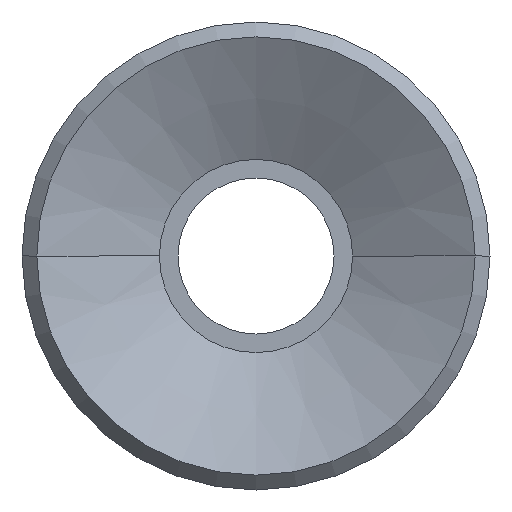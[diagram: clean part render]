
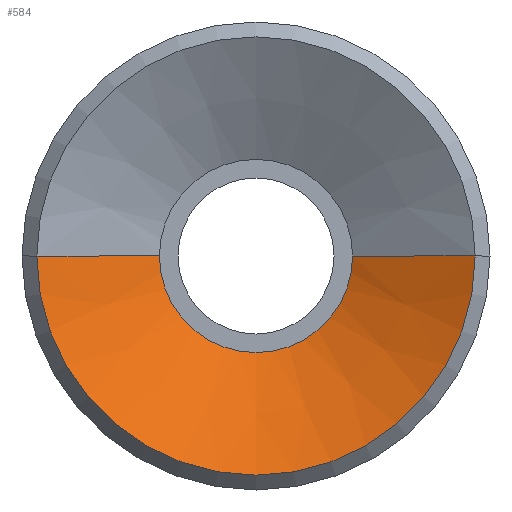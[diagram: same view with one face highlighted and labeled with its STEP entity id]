
A CAD part, front view. The second image highlights one B-rep face of the part: STEP entity #584.
In plain terms, the highlighted conical face has half-angle 61.39 degrees and reference radius 2.95 mm.
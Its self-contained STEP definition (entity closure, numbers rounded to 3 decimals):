
#2 = CARTESIAN_POINT ( 'NONE',  ( 2.95, -4., 0. ) ) ;
#10 = AXIS2_PLACEMENT_3D ( 'NONE', #312, #195, #461 ) ;
#21 = ORIENTED_EDGE ( 'NONE', *, *, #620, .F. ) ;
#26 = CARTESIAN_POINT ( 'NONE',  ( -2.95, -4., 0. ) ) ;
#31 = CARTESIAN_POINT ( 'NONE',  ( 1.3, -3.1, 0. ) ) ;
#38 = DIRECTION ( 'NONE',  ( 0., 1., 0. ) ) ;
#50 = CARTESIAN_POINT ( 'NONE',  ( -2.95, -4., 0. ) ) ;
#51 = VERTEX_POINT ( 'NONE', #149 ) ;
#96 = DIRECTION ( 'NONE',  ( 0., 1., 0. ) ) ;
#109 = VECTOR ( 'NONE', #242, 1000. ) ;
#149 = CARTESIAN_POINT ( 'NONE',  ( -1.3, -3.1, 0. ) ) ;
#166 = ORIENTED_EDGE ( 'NONE', *, *, #435, .T. ) ;
#195 = DIRECTION ( 'NONE',  ( 0., -1., 0. ) ) ;
#208 = AXIS2_PLACEMENT_3D ( 'NONE', #476, #38, #415 ) ;
#226 = EDGE_LOOP ( 'NONE', ( #689, #166, #518, #21 ) ) ;
#242 = DIRECTION ( 'NONE',  ( -0.878, -0.479, 0. ) ) ;
#247 = CIRCLE ( 'NONE', #208, 2.95 ) ;
#282 = CIRCLE ( 'NONE', #375, 1.3 ) ;
#298 = CONICAL_SURFACE ( 'NONE', #10, 2.95, 1.071 ) ;
#305 = CARTESIAN_POINT ( 'NONE',  ( 0., -3.1, 0. ) ) ;
#312 = CARTESIAN_POINT ( 'NONE',  ( 0., -4., 0. ) ) ;
#360 = VECTOR ( 'NONE', #642, 1000. ) ;
#375 = AXIS2_PLACEMENT_3D ( 'NONE', #305, #96, #564 ) ;
#411 = VERTEX_POINT ( 'NONE', #613 ) ;
#415 = DIRECTION ( 'NONE',  ( -1., 0., 0. ) ) ;
#435 = EDGE_CURVE ( 'NONE', #51, #624, #471, .T. ) ;
#461 = DIRECTION ( 'NONE',  ( 1., 0., 0. ) ) ;
#471 = LINE ( 'NONE', #26, #109 ) ;
#476 = CARTESIAN_POINT ( 'NONE',  ( 0., -4., 0. ) ) ;
#518 = ORIENTED_EDGE ( 'NONE', *, *, #533, .F. ) ;
#533 = EDGE_CURVE ( 'NONE', #411, #624, #247, .T. ) ;
#535 = EDGE_CURVE ( 'NONE', #586, #51, #282, .T. ) ;
#564 = DIRECTION ( 'NONE',  ( -1., 0., 0. ) ) ;
#584 = ADVANCED_FACE ( 'NONE', ( #591 ), #298, .F. ) ;
#586 = VERTEX_POINT ( 'NONE', #31 ) ;
#591 = FACE_OUTER_BOUND ( 'NONE', #226, .T. ) ;
#613 = CARTESIAN_POINT ( 'NONE',  ( 2.95, -4., 0. ) ) ;
#618 = LINE ( 'NONE', #2, #360 ) ;
#620 = EDGE_CURVE ( 'NONE', #586, #411, #618, .T. ) ;
#624 = VERTEX_POINT ( 'NONE', #50 ) ;
#642 = DIRECTION ( 'NONE',  ( 0.878, -0.479, 0. ) ) ;
#689 = ORIENTED_EDGE ( 'NONE', *, *, #535, .T. ) ;
